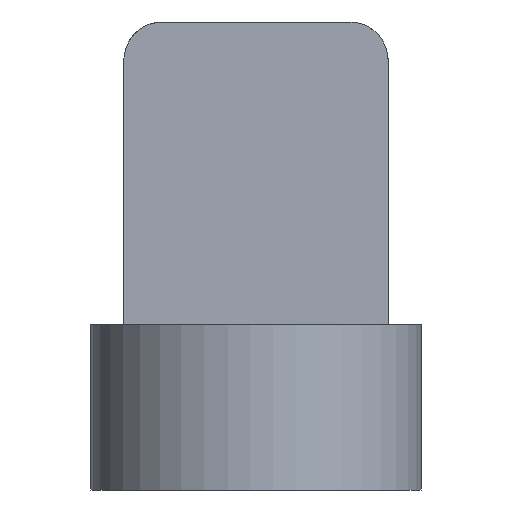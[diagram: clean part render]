
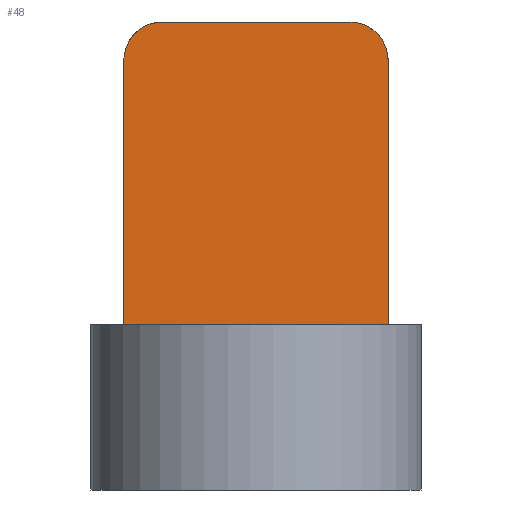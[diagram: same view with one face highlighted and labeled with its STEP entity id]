
A CAD part, front view. The second image highlights one B-rep face of the part: STEP entity #48.
In plain terms, the highlighted planar face has unit normal (0, -1, 0).
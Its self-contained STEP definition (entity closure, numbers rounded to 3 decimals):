
#48=ADVANCED_FACE('',(#388),#5140,.T.);
#388=FACE_OUTER_BOUND('',#728,.T.);
#728=EDGE_LOOP('',(#1119,#1120,#1121,#1122,#1123,#1124));
#1119=ORIENTED_EDGE('',*,*,#3327,.T.);
#1120=ORIENTED_EDGE('',*,*,#3331,.T.);
#1121=ORIENTED_EDGE('',*,*,#2767,.T.);
#1122=ORIENTED_EDGE('',*,*,#2761,.F.);
#1123=ORIENTED_EDGE('',*,*,#2769,.T.);
#1124=ORIENTED_EDGE('',*,*,#3332,.F.);
#2761=EDGE_CURVE('',#4425,#4424,#3945,.T.);
#2767=EDGE_CURVE('',#4423,#4424,#3587,.T.);
#2769=EDGE_CURVE('',#4425,#4426,#3589,.T.);
#3327=EDGE_CURVE('',#4775,#4776,#4311,.T.);
#3331=EDGE_CURVE('',#4776,#4423,#4315,.T.);
#3332=EDGE_CURVE('',#4775,#4426,#4316,.T.);
#3587=(
BOUNDED_CURVE()
B_SPLINE_CURVE(2,(#16109,#16110,#16111),.UNSPECIFIED.,.F.,.F.)
B_SPLINE_CURVE_WITH_KNOTS((3,3),(0.,1.),.UNSPECIFIED.)
CURVE()
GEOMETRIC_REPRESENTATION_ITEM()
RATIONAL_B_SPLINE_CURVE((1.,0.707,1.))
REPRESENTATION_ITEM('')
);
#3589=(
BOUNDED_CURVE()
B_SPLINE_CURVE(2,(#16115,#16116,#16117),.UNSPECIFIED.,.F.,.F.)
B_SPLINE_CURVE_WITH_KNOTS((3,3),(-1.,0.),.UNSPECIFIED.)
CURVE()
GEOMETRIC_REPRESENTATION_ITEM()
RATIONAL_B_SPLINE_CURVE((1.,0.707,1.))
REPRESENTATION_ITEM('')
);
#3945=B_SPLINE_CURVE_WITH_KNOTS('',1,(#16097,#16098),.UNSPECIFIED.,.F.,
 .F.,(2,2),(0.7,4.1),.UNSPECIFIED.);
#4311=B_SPLINE_CURVE_WITH_KNOTS('',1,(#20209,#20210),.UNSPECIFIED.,.F.,
 .F.,(2,2),(0.6,5.4),.UNSPECIFIED.);
#4315=B_SPLINE_CURVE_WITH_KNOTS('',1,(#20217,#20218),.UNSPECIFIED.,.F.,
 .F.,(2,2),(3.,7.8),.UNSPECIFIED.);
#4316=B_SPLINE_CURVE_WITH_KNOTS('',1,(#20219,#20220),.UNSPECIFIED.,.F.,
 .F.,(2,2),(3.,7.8),.UNSPECIFIED.);
#4423=VERTEX_POINT('',#15577);
#4424=VERTEX_POINT('',#15578);
#4425=VERTEX_POINT('',#15579);
#4426=VERTEX_POINT('',#15580);
#4775=VERTEX_POINT('',#15929);
#4776=VERTEX_POINT('',#15930);
#5140=PLANE('',#5284);
#5284=AXIS2_PLACEMENT_3D('',#5550,#5411,$);
#5411=DIRECTION('',(0.,-1.,0.));
#5550=CARTESIAN_POINT('',(-12.4,-3.2,0.));
#15577=CARTESIAN_POINT('',(-7.6,-3.2,7.8));
#15578=CARTESIAN_POINT('',(-8.3,-3.2,8.5));
#15579=CARTESIAN_POINT('',(-11.7,-3.2,8.5));
#15580=CARTESIAN_POINT('',(-12.4,-3.2,7.8));
#15929=CARTESIAN_POINT('',(-12.4,-3.2,3.));
#15930=CARTESIAN_POINT('',(-7.6,-3.2,3.));
#16097=CARTESIAN_POINT('',(-11.7,-3.2,8.5));
#16098=CARTESIAN_POINT('',(-8.3,-3.2,8.5));
#16109=CARTESIAN_POINT('',(-7.6,-3.2,7.8));
#16110=CARTESIAN_POINT('',(-7.6,-3.2,8.5));
#16111=CARTESIAN_POINT('',(-8.3,-3.2,8.5));
#16115=CARTESIAN_POINT('',(-11.7,-3.2,8.5));
#16116=CARTESIAN_POINT('',(-12.4,-3.2,8.5));
#16117=CARTESIAN_POINT('',(-12.4,-3.2,7.8));
#20209=CARTESIAN_POINT('',(-12.4,-3.2,3.));
#20210=CARTESIAN_POINT('',(-7.6,-3.2,3.));
#20217=CARTESIAN_POINT('',(-7.6,-3.2,3.));
#20218=CARTESIAN_POINT('',(-7.6,-3.2,7.8));
#20219=CARTESIAN_POINT('',(-12.4,-3.2,3.));
#20220=CARTESIAN_POINT('',(-12.4,-3.2,7.8));
